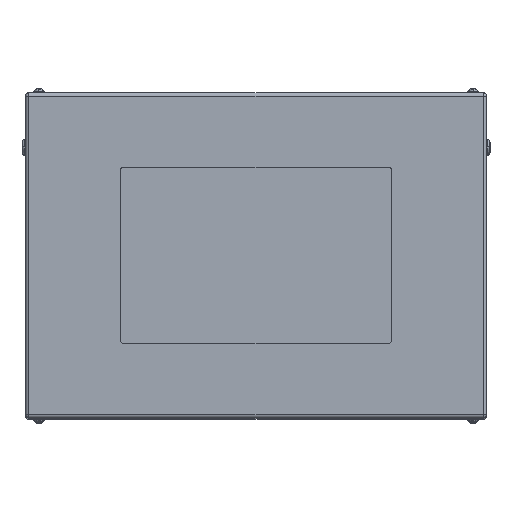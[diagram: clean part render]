
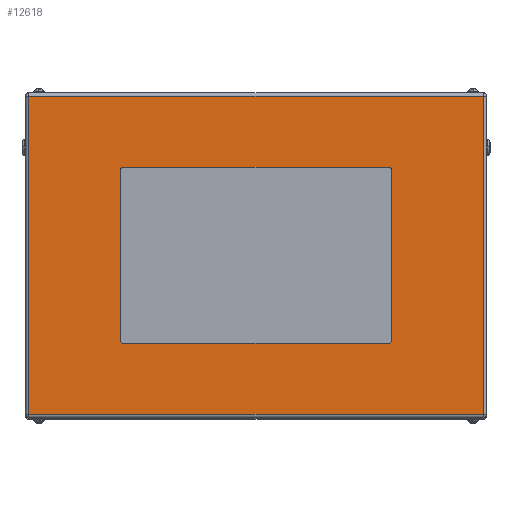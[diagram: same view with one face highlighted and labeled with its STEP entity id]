
A CAD part, top view. The second image highlights one B-rep face of the part: STEP entity #12618.
In plain terms, the highlighted planar face has unit normal (0, 0, 1).
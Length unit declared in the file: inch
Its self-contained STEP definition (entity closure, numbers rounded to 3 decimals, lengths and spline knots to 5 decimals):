
#19 = CARTESIAN_POINT ( 'NONE',  ( -10., 6.25, 29. ) ) ;
#223 = LINE ( 'NONE', #4939, #11699 ) ;
#673 = CARTESIAN_POINT ( 'NONE',  ( 10., -6.25, 29. ) ) ;
#779 = AXIS2_PLACEMENT_3D ( 'NONE', #9774, #11219, #3244 ) ;
#1305 = EDGE_CURVE ( 'NONE', #12002, #7693, #15747, .T. ) ;
#1324 = ORIENTED_EDGE ( 'NONE', *, *, #10517, .T. ) ;
#1399 = CARTESIAN_POINT ( 'NONE',  ( -16.734, 12., 29. ) ) ;
#1450 = CARTESIAN_POINT ( 'NONE',  ( -9.75, 6.5, 29. ) ) ;
#1593 = ORIENTED_EDGE ( 'NONE', *, *, #5123, .F. ) ;
#1773 = ORIENTED_EDGE ( 'NONE', *, *, #10374, .F. ) ;
#1934 = VECTOR ( 'NONE', #20693, 39.37008 ) ;
#2602 = CARTESIAN_POINT ( 'NONE',  ( -10., -6.25, 29. ) ) ;
#2628 = DIRECTION ( 'NONE',  ( 1., 0., 0. ) ) ;
#2939 = EDGE_CURVE ( 'NONE', #19364, #8368, #223, .T. ) ;
#2974 = CARTESIAN_POINT ( 'NONE',  ( 16.734, -11.734, 29. ) ) ;
#3003 = EDGE_LOOP ( 'NONE', ( #5726, #1593, #16071, #11435, #8565, #1773, #11305, #18928 ) ) ;
#3244 = DIRECTION ( 'NONE',  ( 1., 0., 0. ) ) ;
#3365 = VERTEX_POINT ( 'NONE', #4108 ) ;
#3562 = CARTESIAN_POINT ( 'NONE',  ( 16.734, 12., 29. ) ) ;
#3673 = EDGE_CURVE ( 'NONE', #7693, #9563, #4477, .T. ) ;
#3685 = CARTESIAN_POINT ( 'NONE',  ( 17., 11.734, 29. ) ) ;
#3839 = DIRECTION ( 'NONE',  ( 1., 0., 0. ) ) ;
#3922 = CARTESIAN_POINT ( 'NONE',  ( 9.75, 6.5, 29. ) ) ;
#4108 = CARTESIAN_POINT ( 'NONE',  ( -9.75, -6.5, 29. ) ) ;
#4477 = LINE ( 'NONE', #2974, #5694 ) ;
#4746 = DIRECTION ( 'NONE',  ( 0., 0., 1. ) ) ;
#4939 = CARTESIAN_POINT ( 'NONE',  ( -9.75, 6.5, 29. ) ) ;
#5123 = EDGE_CURVE ( 'NONE', #16678, #3365, #13472, .T. ) ;
#5528 = CARTESIAN_POINT ( 'NONE',  ( -10., 6.25, 29. ) ) ;
#5694 = VECTOR ( 'NONE', #6372, 39.37008 ) ;
#5726 = ORIENTED_EDGE ( 'NONE', *, *, #11908, .F. ) ;
#5793 = CARTESIAN_POINT ( 'NONE',  ( 17., 12., 29. ) ) ;
#6372 = DIRECTION ( 'NONE',  ( 1., 0., 0. ) ) ;
#6613 = DIRECTION ( 'NONE',  ( -1., 0., 0. ) ) ;
#6726 = LINE ( 'NONE', #3562, #14278 ) ;
#7693 = VERTEX_POINT ( 'NONE', #13729 ) ;
#7877 = LINE ( 'NONE', #19, #1934 ) ;
#8322 = VERTEX_POINT ( 'NONE', #13615 ) ;
#8330 = AXIS2_PLACEMENT_3D ( 'NONE', #12373, #18898, #2628 ) ;
#8368 = VERTEX_POINT ( 'NONE', #1450 ) ;
#8513 = FACE_OUTER_BOUND ( 'NONE', #15976, .T. ) ;
#8565 = ORIENTED_EDGE ( 'NONE', *, *, #2939, .F. ) ;
#8844 = LINE ( 'NONE', #3685, #15901 ) ;
#9563 = VERTEX_POINT ( 'NONE', #9698 ) ;
#9576 = LINE ( 'NONE', #17826, #16398 ) ;
#9641 = VERTEX_POINT ( 'NONE', #17315 ) ;
#9698 = CARTESIAN_POINT ( 'NONE',  ( 16.734, -11.734, 29. ) ) ;
#9758 = VERTEX_POINT ( 'NONE', #15503 ) ;
#9774 = CARTESIAN_POINT ( 'NONE',  ( -9.75, -6.25, 29. ) ) ;
#9939 = VECTOR ( 'NONE', #3839, 39.37008 ) ;
#10374 = EDGE_CURVE ( 'NONE', #8322, #19364, #15631, .T. ) ;
#10422 = EDGE_CURVE ( 'NONE', #19332, #16678, #7877, .T. ) ;
#10485 = VECTOR ( 'NONE', #20588, 39.37008 ) ;
#10517 = EDGE_CURVE ( 'NONE', #9563, #9641, #6726, .T. ) ;
#10908 = DIRECTION ( 'NONE',  ( -1., 0., 0. ) ) ;
#10957 = ORIENTED_EDGE ( 'NONE', *, *, #1305, .T. ) ;
#11219 = DIRECTION ( 'NONE',  ( 0., 0., 1. ) ) ;
#11305 = ORIENTED_EDGE ( 'NONE', *, *, #16532, .F. ) ;
#11435 = ORIENTED_EDGE ( 'NONE', *, *, #14633, .F. ) ;
#11474 = VERTEX_POINT ( 'NONE', #673 ) ;
#11685 = LINE ( 'NONE', #19795, #9939 ) ;
#11699 = VECTOR ( 'NONE', #6613, 39.37008 ) ;
#11745 = DIRECTION ( 'NONE',  ( -1., 0., 0. ) ) ;
#11908 = EDGE_CURVE ( 'NONE', #3365, #9758, #11685, .T. ) ;
#11976 = CIRCLE ( 'NONE', #13670, 0.25 ) ;
#12002 = VERTEX_POINT ( 'NONE', #20410 ) ;
#12373 = CARTESIAN_POINT ( 'NONE',  ( -9.75, 6.25, 29. ) ) ;
#12618 = ADVANCED_FACE ( 'NONE', ( #14811, #8513 ), #19737, .F. ) ;
#13087 = EDGE_CURVE ( 'NONE', #9641, #12002, #8844, .T. ) ;
#13100 = CARTESIAN_POINT ( 'NONE',  ( 9.75, -6.25, 29. ) ) ;
#13472 = CIRCLE ( 'NONE', #779, 0.25 ) ;
#13615 = CARTESIAN_POINT ( 'NONE',  ( 10., 6.25, 29. ) ) ;
#13647 = DIRECTION ( 'NONE',  ( -1., 0., 0. ) ) ;
#13670 = AXIS2_PLACEMENT_3D ( 'NONE', #13100, #15073, #19485 ) ;
#13729 = CARTESIAN_POINT ( 'NONE',  ( -16.734, -11.734, 29. ) ) ;
#13757 = DIRECTION ( 'NONE',  ( 0., 0., -1. ) ) ;
#14278 = VECTOR ( 'NONE', #16358, 39.37008 ) ;
#14541 = AXIS2_PLACEMENT_3D ( 'NONE', #5793, #13757, #13647 ) ;
#14633 = EDGE_CURVE ( 'NONE', #8368, #19332, #18060, .T. ) ;
#14811 = FACE_BOUND ( 'NONE', #3003, .T. ) ;
#15073 = DIRECTION ( 'NONE',  ( 0., 0., 1. ) ) ;
#15503 = CARTESIAN_POINT ( 'NONE',  ( 9.75, -6.5, 29. ) ) ;
#15631 = CIRCLE ( 'NONE', #17294, 0.25 ) ;
#15747 = LINE ( 'NONE', #1399, #10485 ) ;
#15901 = VECTOR ( 'NONE', #11745, 39.37008 ) ;
#15976 = EDGE_LOOP ( 'NONE', ( #10957, #17783, #1324, #18913 ) ) ;
#16071 = ORIENTED_EDGE ( 'NONE', *, *, #10422, .F. ) ;
#16163 = DIRECTION ( 'NONE',  ( 0., 1., 0. ) ) ;
#16358 = DIRECTION ( 'NONE',  ( 0., 1., 0. ) ) ;
#16398 = VECTOR ( 'NONE', #16163, 39.37008 ) ;
#16532 = EDGE_CURVE ( 'NONE', #11474, #8322, #9576, .T. ) ;
#16678 = VERTEX_POINT ( 'NONE', #2602 ) ;
#16914 = EDGE_CURVE ( 'NONE', #9758, #11474, #11976, .T. ) ;
#17294 = AXIS2_PLACEMENT_3D ( 'NONE', #17620, #4746, #10908 ) ;
#17315 = CARTESIAN_POINT ( 'NONE',  ( 16.734, 11.734, 29. ) ) ;
#17620 = CARTESIAN_POINT ( 'NONE',  ( 9.75, 6.25, 29. ) ) ;
#17783 = ORIENTED_EDGE ( 'NONE', *, *, #3673, .T. ) ;
#17826 = CARTESIAN_POINT ( 'NONE',  ( 10., 6.25, 29. ) ) ;
#18060 = CIRCLE ( 'NONE', #8330, 0.25 ) ;
#18898 = DIRECTION ( 'NONE',  ( 0., 0., 1. ) ) ;
#18913 = ORIENTED_EDGE ( 'NONE', *, *, #13087, .T. ) ;
#18928 = ORIENTED_EDGE ( 'NONE', *, *, #16914, .F. ) ;
#19332 = VERTEX_POINT ( 'NONE', #5528 ) ;
#19364 = VERTEX_POINT ( 'NONE', #3922 ) ;
#19485 = DIRECTION ( 'NONE',  ( 1., 0., 0. ) ) ;
#19737 = PLANE ( 'NONE',  #14541 ) ;
#19795 = CARTESIAN_POINT ( 'NONE',  ( -9.75, -6.5, 29. ) ) ;
#20410 = CARTESIAN_POINT ( 'NONE',  ( -16.734, 11.734, 29. ) ) ;
#20588 = DIRECTION ( 'NONE',  ( 0., -1., 0. ) ) ;
#20693 = DIRECTION ( 'NONE',  ( 0., -1., 0. ) ) ;
